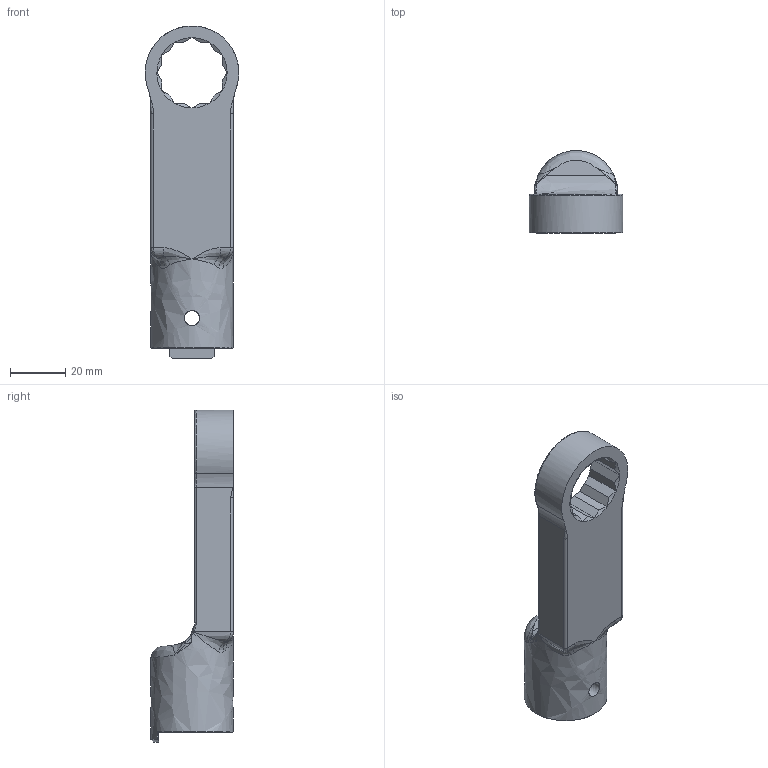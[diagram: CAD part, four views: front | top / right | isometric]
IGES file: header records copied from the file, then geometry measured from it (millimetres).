
Global section: file name: RH22DX22; native system: Autodesk Inventor 2016; preprocessor: unknown; author: Q600; date: 20151110.163312; units: millimetre
Bounding box: 33.99 x 30 x 120.49 mm (x, y, z)
Volume: 41386.6 mm3; surface area: 13565.1 mm2
Topology: 1 solids, 1 shells, 110 faces, 294 edges, 173 vertices
Faces by surface type: bspline 110
